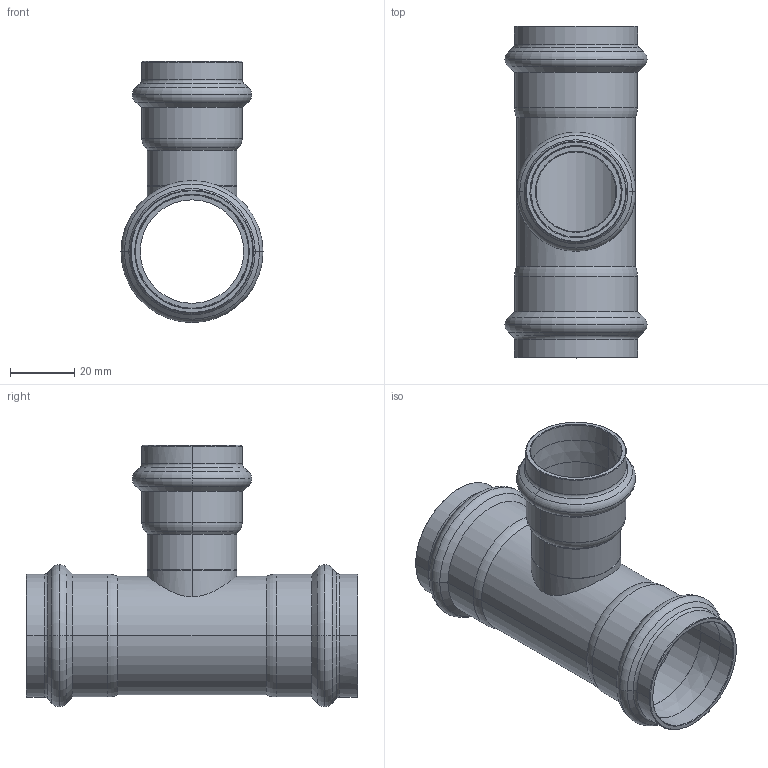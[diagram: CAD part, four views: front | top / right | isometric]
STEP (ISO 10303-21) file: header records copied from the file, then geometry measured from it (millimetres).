
FILE_DESCRIPTION(('CoCreate Modeling STEP Export'),'2;1');
FILE_NAME('8130RVW352835.stp','2013-01-31T14:42:55',(''),(''),'CoCreate Modeling STEP processor for AP214 (Solid Model)','CoCreate Modeling 17.00A 17-Jun-2010 (C) Parametric Technology GmbH','');
FILE_SCHEMA(('AUTOMOTIVE_DESIGN { 1 0 10303 214 1 1 1 1 }'));
Length unit declared in the file: millimetre
Products named in the file (2): 8130RVW352835
Assembly tree (1 placements, depth 2):
  8130RVW352835
    8130RVW352835
Bounding box: 44.3 x 103.51 x 81.49 mm (x, y, z)
Volume: 28585.7 mm3; surface area: 32799.9 mm2
Topology: 1 solids, 1 shells, 134 faces, 291 edges, 167 vertices
Faces by surface type: cylinder 42, torus 42, cone 38, plane 10, bspline 2
Entity records: 5700 total; most frequent: CARTESIAN_POINT 3217, ORIENTED_EDGE 582, DIRECTION 444, EDGE_CURVE 291, AXIS2_PLACEMENT_3D 182, VERTEX_POINT 167, EDGE_LOOP 146, FACE_OUTER_BOUND 134
